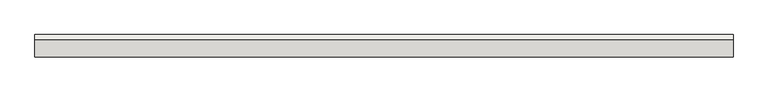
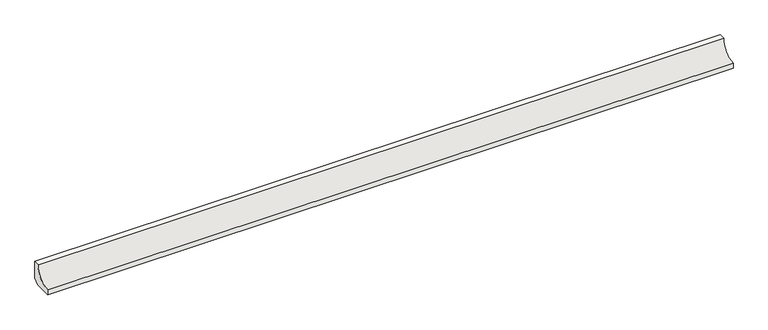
"""IFC4 building model written with IfcOpenShell, lengths in millimetres: slab geometry, ROSA GRES_188 : Pieza 188_Serena_Ocra_Anti-Slip."""

from ifc_helpers import new_model, si_unit, point, frame, frame_2d, origin, place, context, project, spatial, polyline, circle_curve, trimmed, segment, composite_curve, outline, extrude, source, transform, mapped, element, save


def slab_efdcb582(model_context):
    return source(origin(), model_context, "Body", "SweptSolid", [
        extrude(outline(composite_curve([segment(polyline([(0.0, 8.7114978), (-8.7114978, 0.0), (-40.0, 0.0), (-40.0, 9.9734114)]), True, "CONTINUOUS"), segment(trimmed(circle_curve(frame_2d((-39.9955547, 39.9955547)), 30.0221435), [point((-40.0, 9.9734114))], [point((-9.9734114, 40.0))], True, "CARTESIAN"), True, "CONTINUOUS"), segment(polyline([(-9.9734114, 40.0), (0.0, 40.0), (0.0, 8.7114978)]), True, "CONTINUOUS")], self_intersect=False)), frame((0.0, 0.0, 0.0), z_axis=(1.0, 0.0, 0.0), x_axis=(0.0, 1.0, 0.0)), (0.0, 0.0, 1.0), 1250.0193275),
    ])


if __name__ == "__main__":
    model = new_model("IFC4")
    model_context = context("Model", 3, world=origin())
    ifc_project = project(units=[si_unit("LENGTHUNIT", "METRE", prefix="MILLI")], contexts=[model_context])
    site = spatial("IfcSite", under=ifc_project)
    building = spatial("IfcBuilding", under=site)
    placement = place(None, origin())
    slab_shape = slab_efdcb582(model_context)
    element("IfcSlab", 1, ObjectType="ROSA GRES_188 : Pieza 188_Serena_Ocra_Anti-Slip", at=placement, inside=building, context=model_context, shape_type="MappedRepresentation", body=[
        mapped(slab_shape, transform((0.0, 0.0, 0.0), x_axis=(1.0, 0.0, 0.0), y_axis=(0.0, 1.0, 0.0), z_axis=(0.0, 0.0, 1.0))),
    ])
    save(model, "model.ifc")
